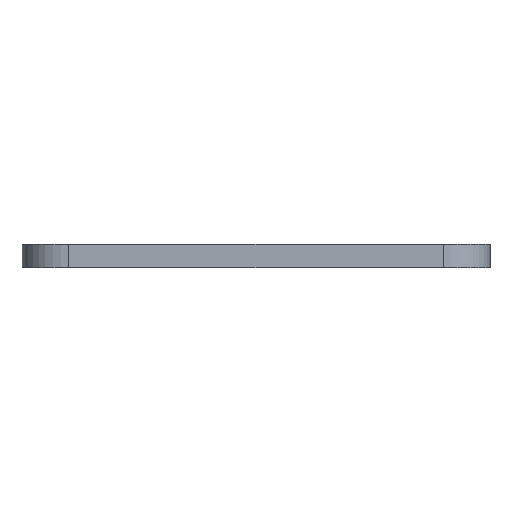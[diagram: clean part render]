
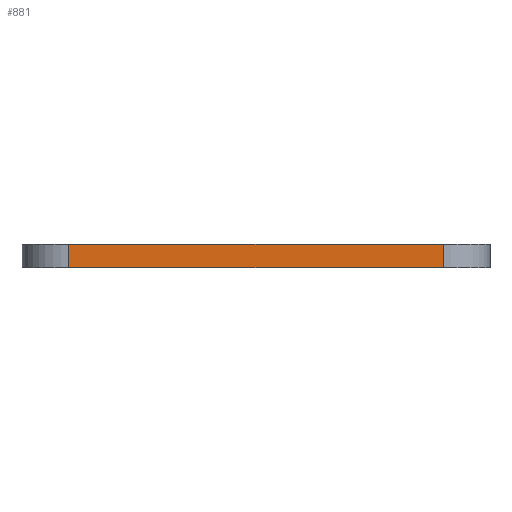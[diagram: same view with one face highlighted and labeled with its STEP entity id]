
A CAD part, left-side view. The second image highlights one B-rep face of the part: STEP entity #881.
In plain terms, the highlighted planar face has unit normal (-1, 0, 0).
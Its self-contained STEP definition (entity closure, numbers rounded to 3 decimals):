
#17 = VECTOR ( 'NONE', #2930, 1000. ) ;
#174 = VERTEX_POINT ( 'NONE', #681 ) ;
#242 = AXIS2_PLACEMENT_3D ( 'NONE', #1317, #1918, #2945 ) ;
#370 = FACE_OUTER_BOUND ( 'NONE', #3028, .T. ) ;
#379 = ORIENTED_EDGE ( 'NONE', *, *, #1250, .T. ) ;
#430 = VECTOR ( 'NONE', #1971, 1000. ) ;
#662 = EDGE_CURVE ( 'NONE', #174, #793, #1645, .T. ) ;
#681 = CARTESIAN_POINT ( 'NONE',  ( -50., 110., 10. ) ) ;
#746 = CARTESIAN_POINT ( 'NONE',  ( -50., 110., 0. ) ) ;
#768 = CARTESIAN_POINT ( 'NONE',  ( -50., -50., 0. ) ) ;
#793 = VERTEX_POINT ( 'NONE', #746 ) ;
#861 = ORIENTED_EDGE ( 'NONE', *, *, #3033, .T. ) ;
#881 = ADVANCED_FACE ( 'NONE', ( #370 ), #2668, .T. ) ;
#989 = VECTOR ( 'NONE', #1063, 1000. ) ;
#999 = VERTEX_POINT ( 'NONE', #768 ) ;
#1063 = DIRECTION ( 'NONE',  ( 0., 0., 1. ) ) ;
#1154 = CARTESIAN_POINT ( 'NONE',  ( -50., -50., 10. ) ) ;
#1250 = EDGE_CURVE ( 'NONE', #2539, #174, #1791, .T. ) ;
#1317 = CARTESIAN_POINT ( 'NONE',  ( -50., -70., 10. ) ) ;
#1342 = CARTESIAN_POINT ( 'NONE',  ( -50., -70., 0. ) ) ;
#1446 = CARTESIAN_POINT ( 'NONE',  ( -50., -70., 10. ) ) ;
#1553 = ORIENTED_EDGE ( 'NONE', *, *, #662, .T. ) ;
#1645 = LINE ( 'NONE', #3258, #2453 ) ;
#1791 = LINE ( 'NONE', #1446, #430 ) ;
#1908 = CARTESIAN_POINT ( 'NONE',  ( -50., -50., 10. ) ) ;
#1918 = DIRECTION ( 'NONE',  ( -1., 0., 0. ) ) ;
#1971 = DIRECTION ( 'NONE',  ( 0., 1., 0. ) ) ;
#2007 = EDGE_CURVE ( 'NONE', #999, #793, #2765, .T. ) ;
#2363 = LINE ( 'NONE', #1908, #989 ) ;
#2453 = VECTOR ( 'NONE', #3333, 1000. ) ;
#2539 = VERTEX_POINT ( 'NONE', #1154 ) ;
#2608 = ORIENTED_EDGE ( 'NONE', *, *, #2007, .F. ) ;
#2668 = PLANE ( 'NONE',  #242 ) ;
#2765 = LINE ( 'NONE', #1342, #17 ) ;
#2930 = DIRECTION ( 'NONE',  ( 0., 1., 0. ) ) ;
#2945 = DIRECTION ( 'NONE',  ( 0., 0., 1. ) ) ;
#3028 = EDGE_LOOP ( 'NONE', ( #2608, #861, #379, #1553 ) ) ;
#3033 = EDGE_CURVE ( 'NONE', #999, #2539, #2363, .T. ) ;
#3258 = CARTESIAN_POINT ( 'NONE',  ( -50., 110., 10. ) ) ;
#3333 = DIRECTION ( 'NONE',  ( 0., 0., -1. ) ) ;
